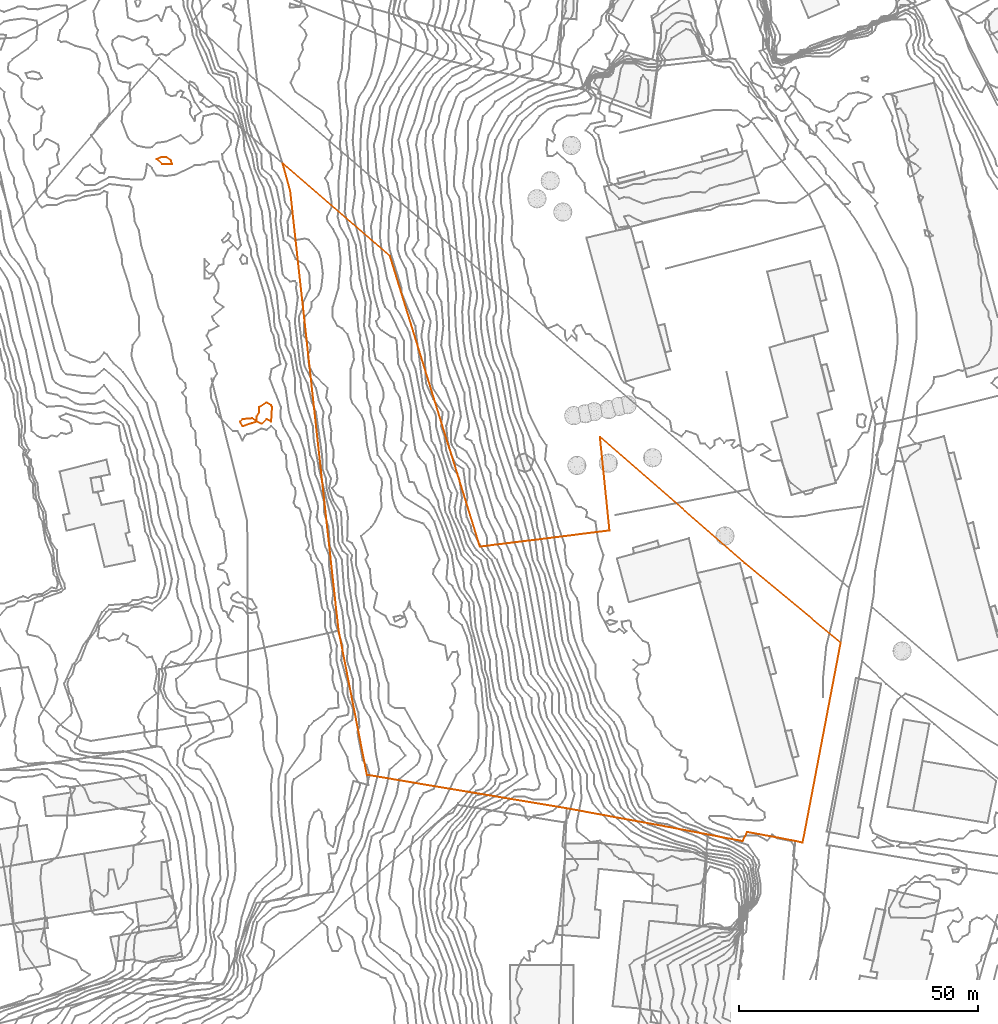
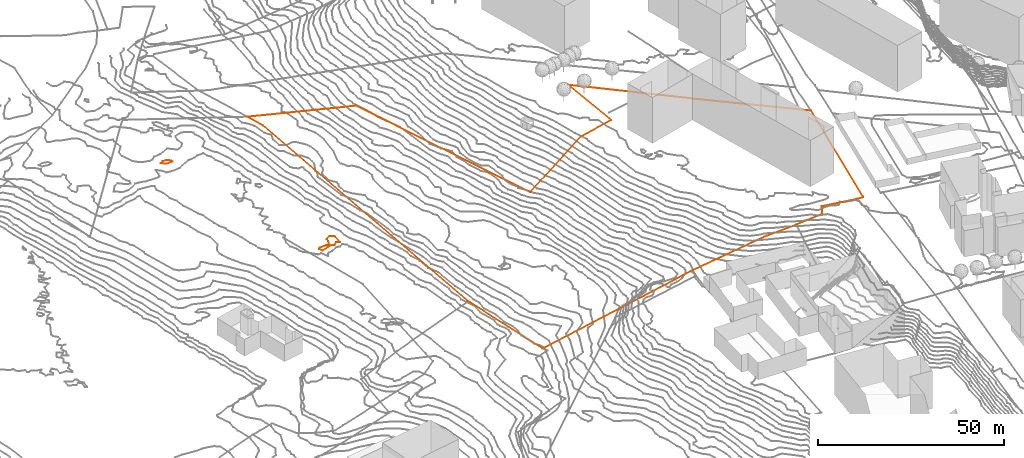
# Not in any storey, part 340 of 419: 4 proxies.
"""IFC2X3 model written with IfcOpenShell, lengths in metres."""

from ifc_helpers import new_model, entity, si_unit, frame, origin_with_axes, place, context, subcontext, project, element, save


model = new_model("IFC2X3")

# Units and contexts
model_context = context("Model", 3, precision=1e-05, world=origin_with_axes())
body_context = subcontext(model_context, "Body", "Model", "MODEL_VIEW")
ifc_project = project(units=[si_unit("AREAUNIT", "SQUARE_METRE"), si_unit("LENGTHUNIT", "METRE")], contexts=[model_context])

# Proxies
proxy_1_placement = place(None, frame((754.5120204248, 984.9976909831, 75.4979196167), z_axis=(0.0, 0.0, 1.0), x_axis=(1.0, 0.0, 0.0)))
element("IfcBuildingElementProxy", 1, at=proxy_1_placement, Name="Cadastre 92", ObjectType="NOTDEFINED", context=body_context, shape_type="GeometricCurveSet", body=[
    entity("IfcGeometricCurveSet", [entity("IfcPolyline", [entity("IfcCartesianPoint", [107.47, -142.0500000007, 21.620916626]), entity("IfcCartesianPoint", [97.34, -140.1700000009, 21.538453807]), entity("IfcCartesianPoint", [96.4299999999, -142.0900000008, 20.60790538]), entity("IfcCartesianPoint", [89.16, -140.7100000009, 18.7424748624]), entity("IfcCartesianPoint", [80.2999999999, -139.0100000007, 16.8729555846]), entity("IfcCartesianPoint", [59.58, -135.2200000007, 10.4914806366]), entity("IfcCartesianPoint", [17.6799999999, -128.2000000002, -4.4759194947]), entity("IfcCartesianPoint", [11.71, -97.7800000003, -5.0702720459]), entity("IfcCartesianPoint", [1.59, -5.79, 0.0590935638]), entity("IfcCartesianPoint", [0.0, 0.0, 0.0]), entity("IfcCartesianPoint", [22.5, -19.4700000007, 7.5579670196]), entity("IfcCartesianPoint", [41.35, -80.3400000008, 9.4737814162]), entity("IfcCartesianPoint", [58.24, -78.25, 20.5282997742]), entity("IfcCartesianPoint", [68.52, -76.9500000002, 21.6138591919]), entity("IfcCartesianPoint", [66.52, -57.3700000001, 21.9763177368]), entity("IfcCartesianPoint", [96.87, -83.7800000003, 22.0593374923]), entity("IfcCartesianPoint", [116.98, -100.5, 21.9992804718]), entity("IfcCartesianPoint", [109.11, -141.8100000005, 21.7762300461]), entity("IfcCartesianPoint", [108.95, -142.4100000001, 21.7791153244]), entity("IfcCartesianPoint", [107.47, -142.0500000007, 21.620916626])])]),
])
proxy_2_placement = place(None, frame((728.0920154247, 985.8976909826, 69.0), z_axis=(0.0, 0.0, 1.0), x_axis=(1.0, 0.0, 0.0)))
element("IfcBuildingElementProxy", 2, at=proxy_2_placement, Name="Contour 69.0 m", ObjectType="NOTDEFINED", context=body_context, shape_type="GeometricCurveSet", body=[
    entity("IfcGeometricCurveSet", [entity("IfcPolyline", [entity("IfcCartesianPoint", [3.2353017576, -1.0, 0.0]), entity("IfcCartesianPoint", [1.1428932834, -1.0, 0.0]), entity("IfcCartesianPoint", [0.0, 0.0, 0.0]), entity("IfcCartesianPoint", [1.000005, 0.4444538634, 0.0]), entity("IfcCartesianPoint", [2.000005, 0.4090861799, 0.0]), entity("IfcCartesianPoint", [3.000005, -0.2727146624, 0.0]), entity("IfcCartesianPoint", [3.2353017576, -1.0, 0.0])])]),
])
proxy_3_placement = place(None, frame((745.5920704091, 930.8976909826, 68.0), z_axis=(0.0, 0.0, 1.0), x_axis=(1.0, 0.0, 0.0)))
element("IfcBuildingElementProxy", 3, at=proxy_3_placement, Name="Contour 68.0 m", ObjectType="NOTDEFINED", context=body_context, shape_type="GeometricCurveSet", body=[
    entity("IfcGeometricCurveSet", [entity("IfcPolyline", [entity("IfcCartesianPoint", [2.4999500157, -0.3332909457, 0.0]), entity("IfcCartesianPoint", [3.4999000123, 0.0, 0.0]), entity("IfcCartesianPoint", [2.4999500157, 0.6665818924, 0.0]), entity("IfcCartesianPoint", [0.4999500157, 0.4999500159, 0.0]), entity("IfcCartesianPoint", [0.0, 0.0, 0.0]), entity("IfcCartesianPoint", [0.4999500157, -0.9999000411, 0.0]), entity("IfcCartesianPoint", [2.4999500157, -0.3332909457, 0.0])])]),
])
proxy_4_placement = place(None, frame((749.0920704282, 931.8976909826, 68.0), z_axis=(0.0, 0.0, 1.0), x_axis=(1.0, 0.0, 0.0)))
element("IfcBuildingElementProxy", 4, at=proxy_4_placement, Name="Contour 68.0 m", ObjectType="NOTDEFINED", context=body_context, shape_type="GeometricCurveSet", body=[
    entity("IfcGeometricCurveSet", [entity("IfcPolyline", [entity("IfcCartesianPoint", [0.9999499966, -1.4999500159, 0.0]), entity("IfcCartesianPoint", [1.9999499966, -0.4999749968, 0.0]), entity("IfcCartesianPoint", [2.9999499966, -0.9999000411, 0.0]), entity("IfcCartesianPoint", [3.1922559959, 2.0, 0.0]), entity("IfcCartesianPoint", [2.9999499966, 2.4166640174, 0.0]), entity("IfcCartesianPoint", [1.9999499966, 2.9999000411, 0.0]), entity("IfcCartesianPoint", [0.4999999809, 2.0, 0.0]), entity("IfcCartesianPoint", [0.4999999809, 1.0, 0.0]), entity("IfcCartesianPoint", [0.0, 0.0, 0.0]), entity("IfcCartesianPoint", [4.99552e-05, -1.0, 0.0]), entity("IfcCartesianPoint", [0.9999499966, -1.4999500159, 0.0])])]),
])

save(model, "model.ifc")
